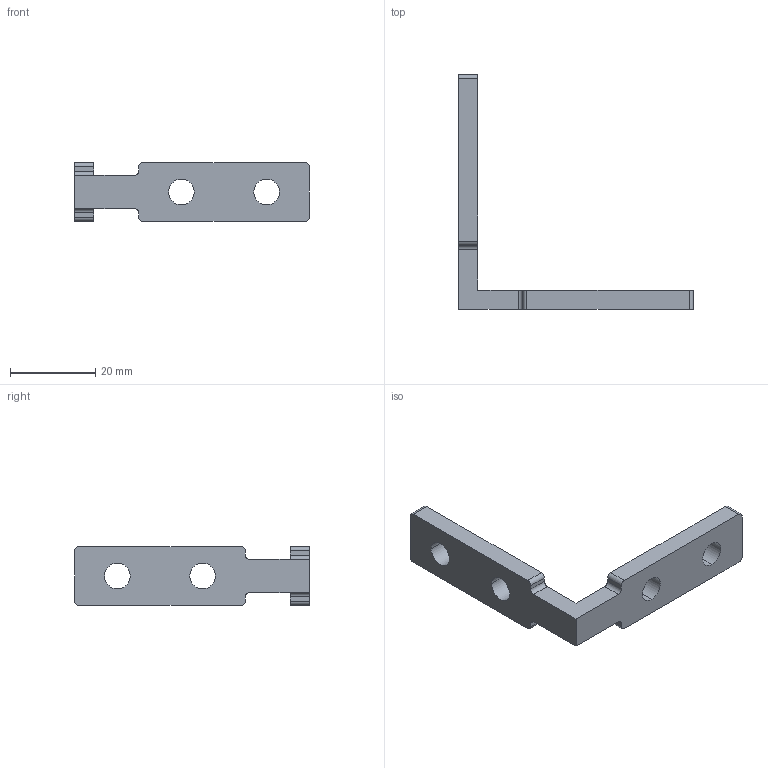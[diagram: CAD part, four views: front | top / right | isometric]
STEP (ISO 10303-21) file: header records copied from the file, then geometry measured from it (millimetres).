
FILE_DESCRIPTION (( 'STEP AP214' ), '1' );
FILE_NAME ('2111.STEP', '2018-10-23T06:23:32', ( '' ), ( '' ), 'SwSTEP 2.0', 'SolidWorks 2014', '' );
FILE_SCHEMA (( 'AUTOMOTIVE_DESIGN' ));
Length unit declared in the file: millimetre
Products named in the file (2): 2111
Bounding box: 55 x 55 x 13.8 mm (x, y, z)
Volume: 5350.2 mm3; surface area: 3821.7 mm2
Topology: 1 solids, 1 shells, 36 faces, 102 edges, 68 vertices
Faces by surface type: cylinder 20, plane 16
Entity records: 1251 total; most frequent: DIRECTION 218, CARTESIAN_POINT 208, ORIENTED_EDGE 204, EDGE_CURVE 102, AXIS2_PLACEMENT_3D 78, VERTEX_POINT 68, LINE 62, VECTOR 62
